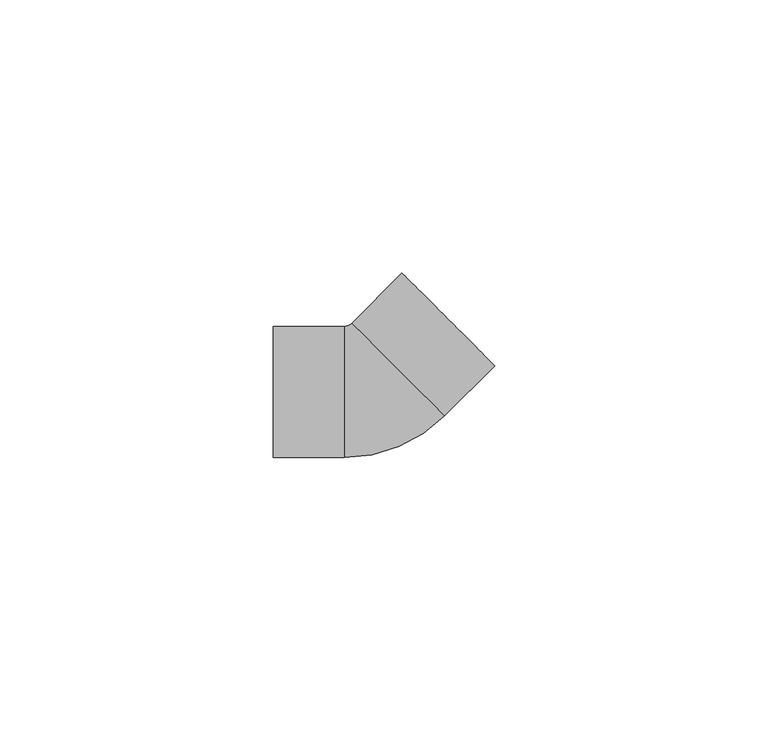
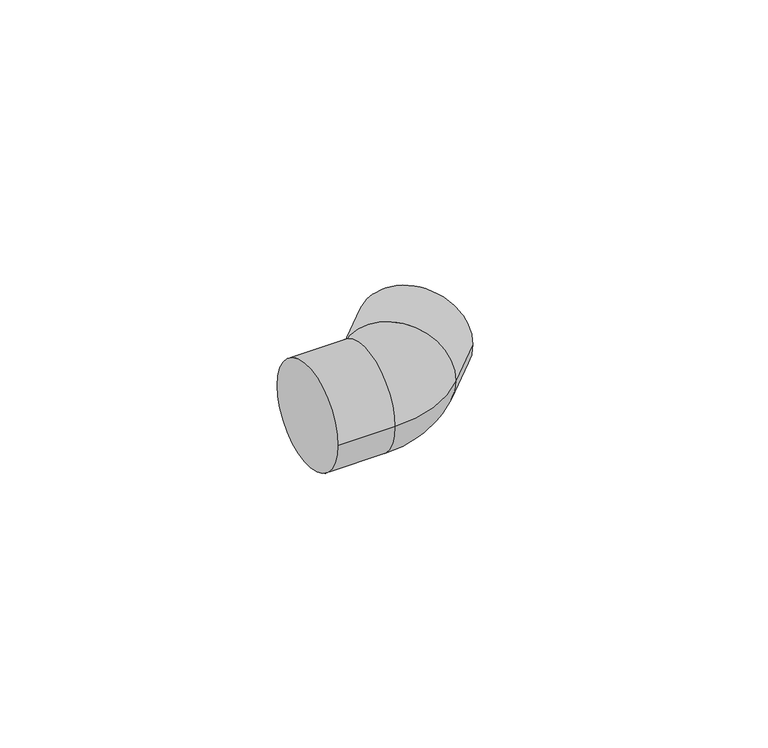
"""IFC4 building model written with IfcOpenShell, lengths in millimetres: pipe fitting geometry, NIRON RED termofusion codo : Estándar."""

from ifc_helpers import new_model, si_unit, point, frame, origin, place, context, project, spatial, circle_curve, ellipse_curve, trimmed, source, transform, mapped, element, save
from ifc_brep_helpers import plane_surface, cylinder_surface, revolved_surface, advanced_brep


def pipe_fitting_1e3e18ef(model_context):
    return source(origin(), model_context, "Body", "AdvancedBrep", [
        advanced_brep(
        [(-18.7643127, -12.0, 0.0), (-18.7643127, 12.0, 0.0), (-5.7643127, -12.0, 0.0), (-5.7643127, 12.0, 0.0), (-4.4092967, 12.561266, 0.0), (12.561266, -4.4092967, 0.0), (21.7536542, 4.7830914, 0.0), (4.7830914, 21.7536542, 0.0)],
        [
            (0, 1, circle_curve(frame((-18.7643127, 0.0, 0.0), z_axis=(-1.0, 0.0, 0.0), x_axis=(0.0, 1.0, 0.0)), 12.0)),
            (1, 0, circle_curve(frame((-18.7643127, 0.0, 0.0), z_axis=(-1.0, 0.0, 0.0), x_axis=(0.0, 1.0, 0.0)), 12.0)),
            (0, 2),
            (2, 3, circle_curve(frame((-5.7643127, 0.0, 0.0), z_axis=(-1.0, 0.0, 0.0), x_axis=(0.0, 1.0, 0.0)), 12.0)),
            (3, 1),
            (3, 2, circle_curve(frame((-5.7643127, 0.0, 0.0), z_axis=(-1.0, 0.0, 0.0), x_axis=(0.0, 1.0, 0.0)), 12.0)),
            (4, 3, circle_curve(frame((-5.7643127, 13.916282, 0.0), z_axis=(0.0, 0.0, -1.0), x_axis=(0.0, -1.0, 0.0)), 1.916282)),
            (2, 5, circle_curve(frame((-5.7643127, 13.916282, 0.0), z_axis=(0.0, 0.0, 1.0), x_axis=(0.0, -1.0, 0.0)), 25.916282)),
            (5, 4, circle_curve(frame((4.0759846, 4.0759846, 0.0), z_axis=(-0.7071067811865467, -0.7071067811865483, 0.0), x_axis=(-0.7071067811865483, 0.7071067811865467, 0.0)), 12.0)),
            (4, 5, circle_curve(frame((4.0759846, 4.0759846, 0.0), z_axis=(-0.7071067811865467, -0.7071067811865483, 0.0), x_axis=(-0.7071067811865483, 0.7071067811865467, 0.0)), 12.0)),
            (6, 7, circle_curve(frame((13.2683728, 13.2683728, 0.0), z_axis=(0.7071067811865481, 0.707106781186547, 0.0), x_axis=(-0.707106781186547, 0.7071067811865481, 0.0)), 12.0)),
            (7, 6, circle_curve(frame((13.2683728, 13.2683728, 0.0), z_axis=(0.7071067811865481, 0.707106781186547, 0.0), x_axis=(-0.707106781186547, 0.7071067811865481, 0.0)), 12.0)),
            (7, 4),
            (5, 6),
        ],
        [
            plane_surface(frame((-18.7643127, 0.0, 0.0), z_axis=(-1.0, 0.0, 0.0), x_axis=(0.0, 0.0, 1.0))),
            cylinder_surface(frame((-18.7643127, 0.0, 0.0), z_axis=(-1.0, 0.0, 0.0), x_axis=(0.0, 1.0, 0.0)), 12.0),
            revolved_surface(trimmed(ellipse_curve(frame((-5.7643127, 0.0, 0.0), z_axis=(-1.0, 0.0, 0.0), x_axis=(0.0, 1.0, 0.0)), 12.0, 12.0), [point((-5.7643127, -12.0, 0.0))], [point((-5.7643127, 12.0, 0.0))], True, "CARTESIAN"), (-5.7643127, 13.916282, 0.0), (0.0, 0.0, 1.0)),
            revolved_surface(trimmed(ellipse_curve(frame((-5.7643127, 0.0, 0.0), z_axis=(-1.0, 0.0, 0.0), x_axis=(0.0, 1.0, 0.0)), 12.0, 12.0), [point((-5.7643127, 12.0, 0.0))], [point((-5.7643127, -12.0, 0.0))], True, "CARTESIAN"), (-5.7643127, 13.916282, 0.0), (0.0, 0.0, 1.0)),
            plane_surface(frame((13.2683728, 13.2683728, 0.0), z_axis=(0.7071067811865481, 0.707106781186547, 0.0), x_axis=(0.0, 0.0, 1.0))),
            cylinder_surface(frame((4.0759846, 4.0759846, 0.0), z_axis=(-0.7071067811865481, -0.707106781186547, 0.0), x_axis=(-0.707106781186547, 0.7071067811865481, 0.0)), 12.0),
        ],
        [
            (0, [[1, 2]]),
            (1, [[-1, 3, 4, 5]]),
            (1, [[-2, -5, 6, -3]]),
            (2, [[7, -4, 8, 9]]),
            (3, [[-7, 10, -8, -6]]),
            (4, [[11, 12]]),
            (5, [[-12, 13, -9, 14]]),
            (5, [[-11, -14, -10, -13]]),
        ],
    ),
    ])


if __name__ == "__main__":
    model = new_model("IFC4")
    model_context = context("Model", 3, world=origin())
    ifc_project = project(units=[si_unit("LENGTHUNIT", "METRE", prefix="MILLI")], contexts=[model_context])
    site = spatial("IfcSite", under=ifc_project)
    building = spatial("IfcBuilding", under=site)
    placement = place(None, origin())
    pipe_fitting_shape = pipe_fitting_1e3e18ef(model_context)
    element("IfcPipeFitting", 1, ObjectType="NIRON RED termofusion codo : Estándar", at=placement, inside=building, context=model_context, shape_type="MappedRepresentation", body=[
        mapped(pipe_fitting_shape, transform((0.0, 0.0, 0.0), x_axis=(1.0, 0.0, 0.0), y_axis=(0.0, 1.0, 0.0), z_axis=(0.0, 0.0, 1.0))),
    ])
    save(model, "model.ifc")
